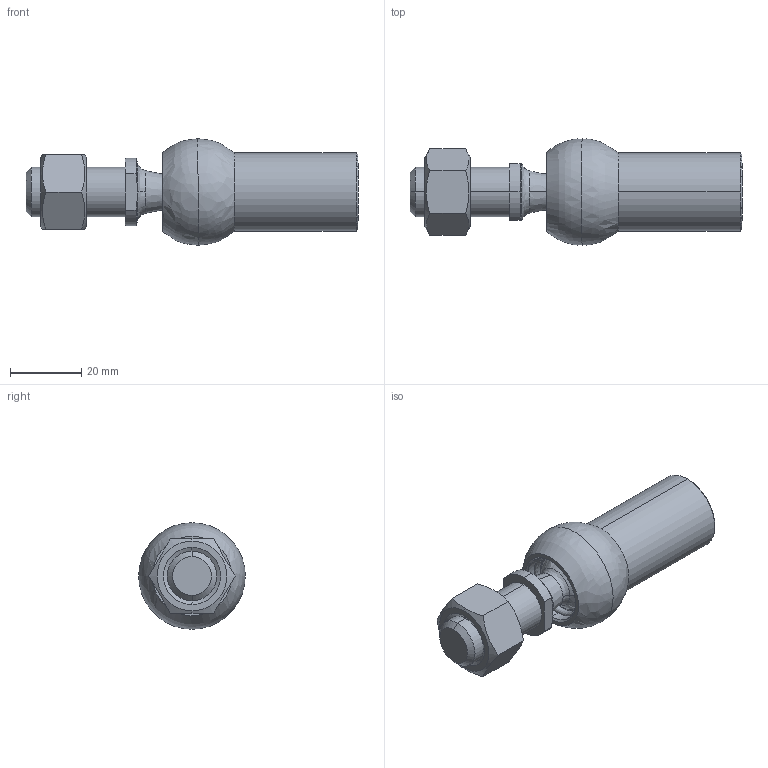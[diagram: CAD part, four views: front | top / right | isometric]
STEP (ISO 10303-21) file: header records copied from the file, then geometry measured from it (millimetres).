
FILE_DESCRIPTION (( 'STEP AP214' ), '1' );
FILE_NAME ('13.AG05.STEP', '2017-10-28T12:42:40', ( '' ), ( '' ), 'SwSTEP 2.0', 'SolidWorks 2016', '' );
FILE_SCHEMA (( 'AUTOMOTIVE_DESIGN' ));
Length unit declared in the file: millimetre
Products named in the file (1): 13.AG05
Bounding box: 93.49 x 30 x 30 mm (x, y, z)
Volume: 29013.8 mm3; surface area: 11277.8 mm2
Topology: 2 solids, 2 shells, 74 faces, 185 edges, 115 vertices
Faces by surface type: cone 22, plane 20, bspline 16, cylinder 16
Entity records: 3384 total; most frequent: CARTESIAN_POINT 1685, ORIENTED_EDGE 350, DIRECTION 339, EDGE_CURVE 175, AXIS2_PLACEMENT_3D 145, VERTEX_POINT 115, CIRCLE 86, EDGE_LOOP 84
